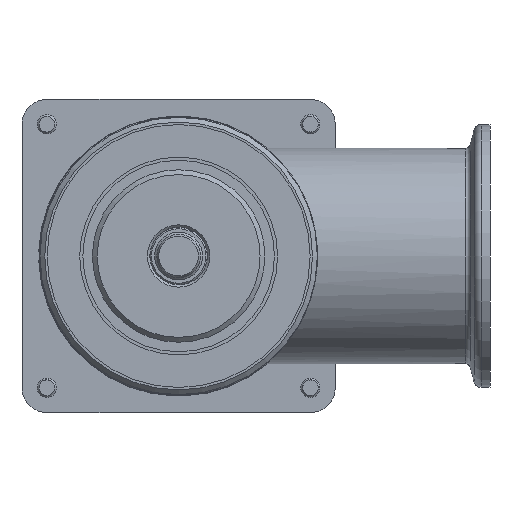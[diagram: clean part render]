
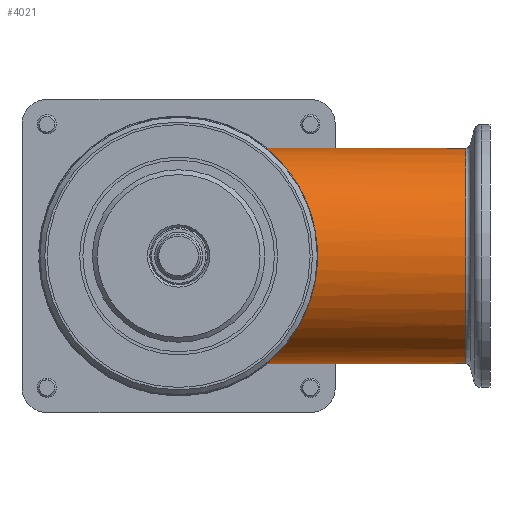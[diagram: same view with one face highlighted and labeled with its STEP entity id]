
A CAD part, front view. The second image highlights one B-rep face of the part: STEP entity #4021.
In plain terms, the highlighted cylindrical face has radius 22.5 mm (diameter 45 mm), a full revolution.
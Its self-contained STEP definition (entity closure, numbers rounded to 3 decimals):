
#1322=B_SPLINE_CURVE_WITH_KNOTS('',3,(#13659,#13660,#13661,#13662,#13663,
#13664,#13665,#13666,#13667,#13668,#13669,#13670,#13671,#13672,#13673,#13674,
#13675,#13676,#13677,#13678,#13679,#13680,#13681,#13682,#13683,#13684,#13685,
#13686,#13687,#13688,#13689,#13690,#13691,#13692),.UNSPECIFIED.,.T.,.F.,
(2,2,2,2,2,2,2,2,2,2,2,2,2,2,2,2,2,2,2),(-0.063,0.,0.063,
0.125,0.188,0.25,0.313,0.375,0.438,0.5,0.563,0.625,0.688,0.75,0.813,
0.875,0.938,1.,1.063),.UNSPECIFIED.);
#3829=CYLINDRICAL_SURFACE('',#10142,22.5);
#4021=ADVANCED_FACE('',(#4625,#4626),#3829,.T.);
#4625=FACE_BOUND('',#5056,.T.);
#4626=FACE_BOUND('',#5057,.T.);
#5056=EDGE_LOOP('',(#5931));
#5057=EDGE_LOOP('',(#5932));
#5931=ORIENTED_EDGE('',*,*,#8702,.T.);
#5932=ORIENTED_EDGE('',*,*,#8703,.F.);
#7882=VERTEX_POINT('',#13658);
#7883=VERTEX_POINT('',#13693);
#8702=EDGE_CURVE('',#7882,#7882,#9693,.T.);
#8703=EDGE_CURVE('',#7883,#7883,#1322,.T.);
#9693=CIRCLE('',#10141,22.5);
#10141=AXIS2_PLACEMENT_3D('',#13657,#11258,#11259);
#10142=AXIS2_PLACEMENT_3D('',#13694,#11260,#11261);
#11258=DIRECTION('',(1.,0.,0.));
#11259=DIRECTION('',(0.,0.,1.));
#11260=DIRECTION('',(-1.,0.,0.));
#11261=DIRECTION('',(0.,0.,1.));
#13657=CARTESIAN_POINT('',(5.094,0.,0.));
#13658=CARTESIAN_POINT('',(5.094,0.,22.5));
#13659=CARTESIAN_POINT('',(46.704,3.147,22.5));
#13660=CARTESIAN_POINT('',(46.704,-3.147,22.5));
#13661=CARTESIAN_POINT('',(45.846,-6.147,21.834));
#13662=CARTESIAN_POINT('',(43.559,-11.43,19.592));
#13663=CARTESIAN_POINT('',(42.145,-13.78,18.006));
#13664=CARTESIAN_POINT('',(39.533,-17.78,14.071));
#13665=CARTESIAN_POINT('',(38.305,-19.454,11.69));
#13666=CARTESIAN_POINT('',(36.531,-21.826,6.225));
#13667=CARTESIAN_POINT('',(36.003,-22.496,3.124));
#13668=CARTESIAN_POINT('',(35.997,-22.504,-3.066));
#13669=CARTESIAN_POINT('',(36.514,-21.847,-6.153));
#13670=CARTESIAN_POINT('',(38.28,-19.489,-11.633));
#13671=CARTESIAN_POINT('',(39.511,-17.811,-14.034));
#13672=CARTESIAN_POINT('',(42.132,-13.802,-17.991));
#13673=CARTESIAN_POINT('',(43.543,-11.46,-19.575));
#13674=CARTESIAN_POINT('',(45.84,-6.169,-21.828));
#13675=CARTESIAN_POINT('',(46.703,-3.139,-22.499));
#13676=CARTESIAN_POINT('',(46.705,3.129,-22.501));
#13677=CARTESIAN_POINT('',(45.847,6.148,-21.834));
#13678=CARTESIAN_POINT('',(43.552,11.444,-19.585));
#13679=CARTESIAN_POINT('',(42.145,13.78,-18.007));
#13680=CARTESIAN_POINT('',(39.533,17.779,-14.072));
#13681=CARTESIAN_POINT('',(38.308,19.45,-11.7));
#13682=CARTESIAN_POINT('',(36.526,21.832,-6.209));
#13683=CARTESIAN_POINT('',(36.003,22.496,-3.117));
#13684=CARTESIAN_POINT('',(35.997,22.504,3.063));
#13685=CARTESIAN_POINT('',(36.513,21.848,6.152));
#13686=CARTESIAN_POINT('',(38.286,19.481,11.649));
#13687=CARTESIAN_POINT('',(39.518,17.802,14.045));
#13688=CARTESIAN_POINT('',(42.136,13.796,17.995));
#13689=CARTESIAN_POINT('',(43.55,11.448,19.582));
#13690=CARTESIAN_POINT('',(45.844,6.156,21.831));
#13691=CARTESIAN_POINT('',(46.704,3.147,22.5));
#13692=CARTESIAN_POINT('',(46.704,-3.147,22.5));
#13693=CARTESIAN_POINT('',(46.704,0.,22.5));
#13694=CARTESIAN_POINT('',(0.,0.,0.));
